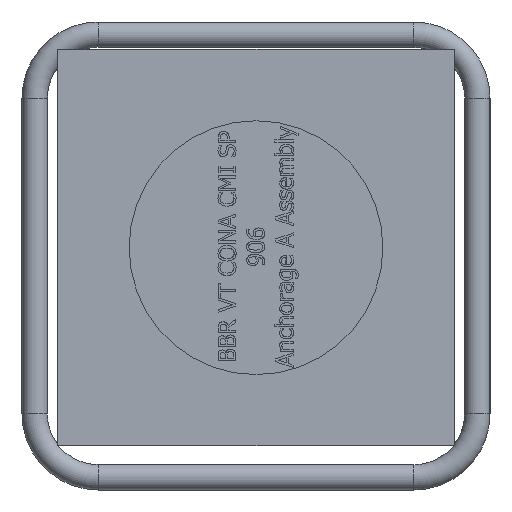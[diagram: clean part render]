
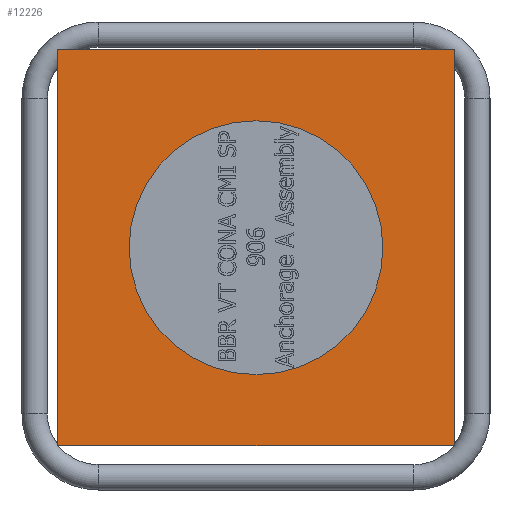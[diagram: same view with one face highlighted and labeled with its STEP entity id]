
A CAD part, left-side view. The second image highlights one B-rep face of the part: STEP entity #12226.
In plain terms, the highlighted planar face has unit normal (-1, 0, 0).
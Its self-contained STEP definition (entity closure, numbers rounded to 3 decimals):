
#1924=LINE('',#24191,#2944);
#1928=LINE('',#24199,#2948);
#1931=LINE('',#24205,#2951);
#1934=LINE('',#24210,#2954);
#2944=VECTOR('',#14329,250.);
#2948=VECTOR('',#14335,250.);
#2951=VECTOR('',#14340,250.);
#2954=VECTOR('',#14345,250.);
#3254=PLANE('',#12597);
#3351=FACE_BOUND('',#4707,.T.);
#3994=FACE_OUTER_BOUND('',#4706,.T.);
#4706=EDGE_LOOP('',(#10883,#10884,#10885,#10886));
#4707=EDGE_LOOP('',(#10887));
#4776=CIRCLE('',#12583,80.);
#5896=VERTEX_POINT('',#21670);
#5902=VERTEX_POINT('',#24189);
#5903=VERTEX_POINT('',#24190);
#5906=VERTEX_POINT('',#24198);
#5908=VERTEX_POINT('',#24204);
#7559=EDGE_CURVE('',#5896,#5896,#4776,.T.);
#7567=EDGE_CURVE('',#5902,#5903,#1924,.T.);
#7571=EDGE_CURVE('',#5903,#5906,#1928,.T.);
#7574=EDGE_CURVE('',#5906,#5908,#1931,.T.);
#7577=EDGE_CURVE('',#5908,#5902,#1934,.T.);
#10883=ORIENTED_EDGE('',*,*,#7577,.T.);
#10884=ORIENTED_EDGE('',*,*,#7567,.T.);
#10885=ORIENTED_EDGE('',*,*,#7571,.T.);
#10886=ORIENTED_EDGE('',*,*,#7574,.T.);
#10887=ORIENTED_EDGE('',*,*,#7559,.T.);
#12226=ADVANCED_FACE('',(#3994,#3351),#3254,.F.);
#12583=AXIS2_PLACEMENT_3D('',#21671,#14307,#14308);
#12597=AXIS2_PLACEMENT_3D('',#24212,#14347,#14348);
#14307=DIRECTION('center_axis',(1.,0.,0.));
#14308=DIRECTION('ref_axis',(0.,0.,
1.));
#14329=DIRECTION('',(0.,0.,-1.));
#14335=DIRECTION('',(0.,-1.,0.));
#14340=DIRECTION('',(0.,0.,1.));
#14345=DIRECTION('',(0.,1.,0.));
#14347=DIRECTION('center_axis',(1.,0.,0.));
#14348=DIRECTION('ref_axis',(0.,0.,1.));
#21670=CARTESIAN_POINT('',(-112.151,-80.,5.253));
#21671=CARTESIAN_POINT('Origin',(-112.151,0.,
5.253));
#24189=CARTESIAN_POINT('',(-112.151,125.,130.253));
#24190=CARTESIAN_POINT('',(-112.151,125.,-119.747));
#24191=CARTESIAN_POINT('',(-112.151,125.,130.253));
#24198=CARTESIAN_POINT('',(-112.151,-125.,-119.747));
#24199=CARTESIAN_POINT('',(-112.151,125.,-119.747));
#24204=CARTESIAN_POINT('',(-112.151,-125.,130.253));
#24205=CARTESIAN_POINT('',(-112.151,-125.,-119.747));
#24210=CARTESIAN_POINT('',(-112.151,-125.,130.253));
#24212=CARTESIAN_POINT('Origin',(-112.151,0.,
5.253));
